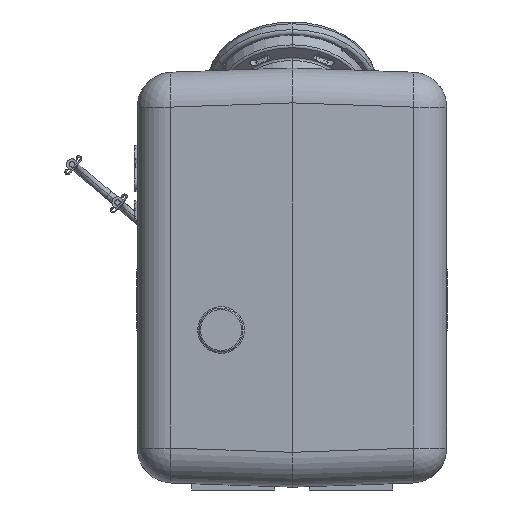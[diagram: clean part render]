
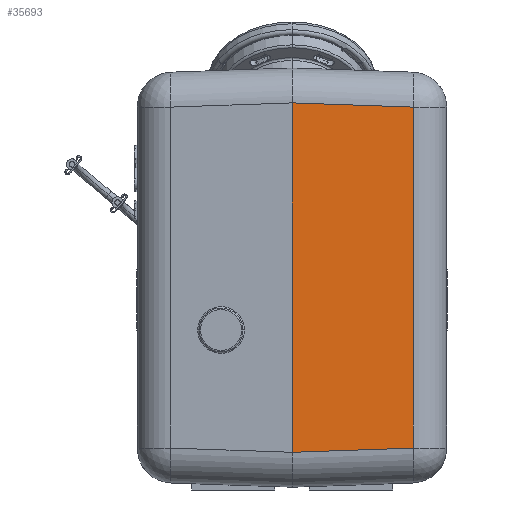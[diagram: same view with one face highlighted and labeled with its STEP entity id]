
A CAD part, front view. The second image highlights one B-rep face of the part: STEP entity #35693.
In plain terms, the highlighted planar face has unit normal (0.035, -0.999, 0) as drawn and (0.999, 0, -0.035) by its records, which use the part's own axes.
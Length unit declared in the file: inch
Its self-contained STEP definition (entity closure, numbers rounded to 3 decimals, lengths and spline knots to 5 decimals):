
#32985=DIRECTION('',(0.,-1.,0.));
#32986=VECTOR('',#32985,4.87961);
#32987=CARTESIAN_POINT('',(2.4895,3.18981,
-1.73245));
#32988=LINE('',#32987,#32986);
#33024=DIRECTION('',(-0.035,0.035,-0.999));
#33025=VECTOR('',#33024,1.73456);
#33026=CARTESIAN_POINT('',(2.55,-1.7503,0.));
#33027=LINE('',#33026,#33025);
#33080=DIRECTION('',(0.,1.,0.));
#33081=VECTOR('',#33080,5.00061);
#33082=CARTESIAN_POINT('',(2.55,-1.7503,0.));
#33083=LINE('',#33082,#33081);
#33239=DIRECTION('',(-0.035,-0.035,-0.999));
#33240=VECTOR('',#33239,1.73456);
#33241=CARTESIAN_POINT('',(2.55,3.2503,0.));
#33242=LINE('',#33241,#33240);
#34543=CARTESIAN_POINT('',(2.4895,3.18981,
-1.73245));
#34544=CARTESIAN_POINT('',(2.4895,-1.68981,
-1.73245));
#34545=VERTEX_POINT('',#34543);
#34546=VERTEX_POINT('',#34544);
#34559=CARTESIAN_POINT('',(2.55,3.2503,0.));
#34560=VERTEX_POINT('',#34559);
#34563=CARTESIAN_POINT('',(2.55,-1.7503,0.));
#34564=VERTEX_POINT('',#34563);
#35679=CARTESIAN_POINT('',(2.55,-2.25,0.));
#35680=DIRECTION('',(0.999,0.,-0.035));
#35681=DIRECTION('',(0.,1.,0.));
#35682=AXIS2_PLACEMENT_3D('',#35679,#35680,#35681);
#35683=PLANE('',#35682);
#35684=ORIENTED_EDGE('',*,*,#35670,.T.);
#35686=ORIENTED_EDGE('',*,*,#35685,.F.);
#35688=ORIENTED_EDGE('',*,*,#35687,.T.);
#35690=ORIENTED_EDGE('',*,*,#35689,.T.);
#35691=EDGE_LOOP('',(#35684,#35686,#35688,#35690));
#35692=FACE_OUTER_BOUND('',#35691,.F.);
#35693=ADVANCED_FACE('',(#35692),#35683,.T.);
#35670=EDGE_CURVE('',#34545,#34546,#32988,.T.);
#35685=EDGE_CURVE('',#34564,#34546,#33027,.T.);
#35687=EDGE_CURVE('',#34564,#34560,#33083,.T.);
#35689=EDGE_CURVE('',#34560,#34545,#33242,.T.);
